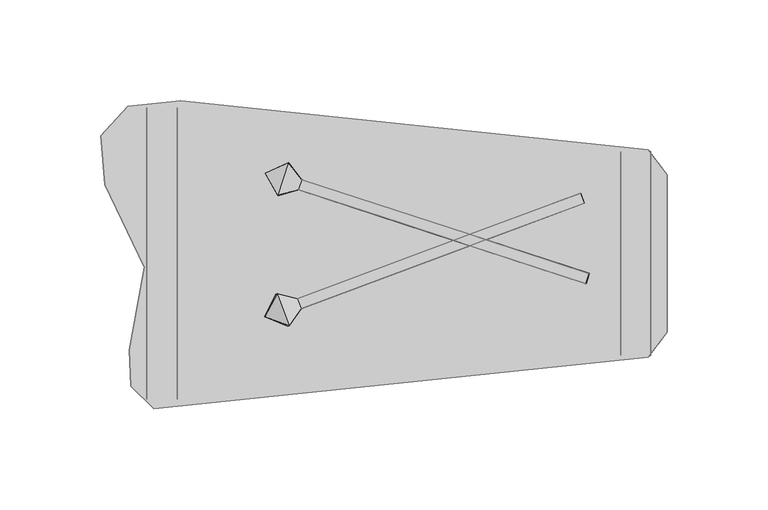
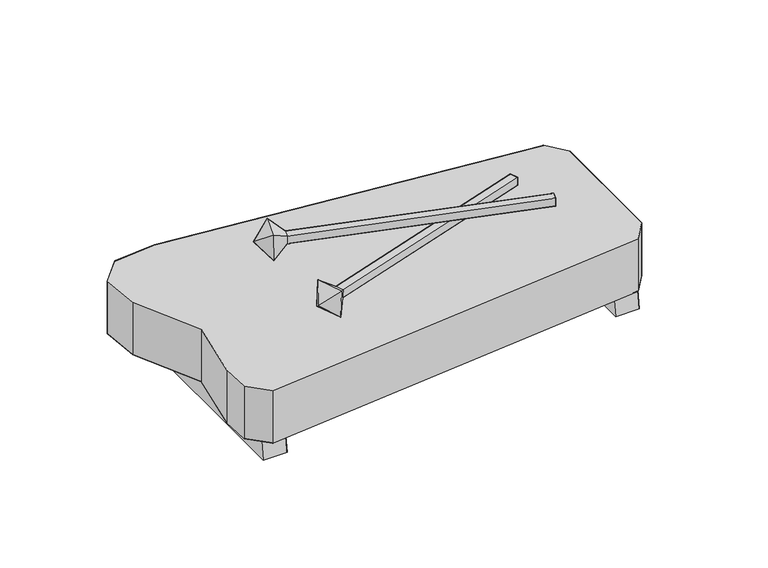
"""IFC4 building model written with IfcOpenShell, lengths in millimetres: geographic element geometry, Enscape AssetDefinition - Instrument 012 Xylophone : Enscape AssetDefinition - Instrument 012 Xylophone."""

from ifc_helpers import new_model, si_unit, origin, place, context, project, spatial, triangles, source, transform, mapped, element, save


def geographic_element_a3d3143a(model_context):
    return source(origin(), model_context, "Body", "Tessellation", [
        triangles([(122.6159986, -51.4159977, 47.9019998), (-122.6079958, -77.0999996, 12.9020002), (-122.6079958, -77.0999996, 47.9019998), (-134.7050045, -47.7280006, 47.9019998), (-133.9530064, -65.7849971, 47.9019998), (-133.9530064, -65.7849971, 12.9020002), (-127.3160024, -6.8189998, 47.9019998), (-134.7050045, -47.7280006, 12.9020002), (-127.3160024, -6.8189998, 12.9020002), (122.6159986, 51.4149985, 12.9020002), (122.6159986, -51.4159977, 12.9020002), (-146.8310085, 34.0900022, 12.9020002), (-148.7729957, 58.4970017, 47.9019998), (-146.8310085, 34.0900022, 47.9019998), (122.6159986, 51.4149985, 47.9019998), (-148.7729957, 58.4970017, 12.9020002), (-109.1729964, 75.6919959, 47.9019998), (-135.491003, 73.0490023, 47.9019998), (-109.1729964, 75.6919959, 12.9020002), (-135.491003, 73.0490023, 12.9020002), (132.0560019, 39.1130014, 12.9020002), (132.0560019, 39.1130014, 47.9019998), (132.0560019, -39.1140006, 12.9020002), (132.0560019, -39.1140006, 47.9019998), (-125.8890001, -72.3970027, 0.0), (-125.8890001, 72.3680028, 0.0), (-110.8889982, -72.3970027, 0.0), (-110.8889982, 69.5120043, 19.974998), (-110.8889982, 72.3680028, 0.0), (-110.8889982, -69.5409997, 19.974998), (-125.8890001, -69.5409997, 19.974998), (-125.8890001, 69.5120043, 19.974998), (123.9840019, 50.469998, 0.0), (123.9840019, -50.4710018, 0.0), (123.9840019, 47.6139996, 19.974998), (108.984, 50.469998, 0.0), (108.984, 47.6139996, 19.974998), (123.9840019, -47.6149988, 19.974998), (108.984, -50.4710018, 0.0), (108.984, -47.6149988, 19.974998), (91.7859945, -14.8910004, 63.4009993), (93.4090059, -9.92, 63.4009993), (-50.7140011, 31.6420003, 54.6839986), (-50.7920033, 31.667001, 59.912999), (91.8629974, -14.9170003, 58.1709996), (-49.1680017, 36.6390018, 59.912999), (93.486999, -9.9449996, 58.1709996), (-55.7839996, 44.9989975, 65.668003), (-61.0660037, 28.8229999, 65.668003), (-67.3409977, 39.8230008, 57.0119997), (-55.5309991, 44.9159993, 48.6540024), (-49.0909988, 36.614001, 54.6839986), (-60.8129986, 28.7399995, 48.6540024), (90.9580018, 25.032, 53.5210019), (-49.4390017, -27.3520005, 59.3799965), (-51.2670015, -22.4519998, 59.3810003), (90.7360041, 24.9489995, 48.2960028), (88.9079998, 29.8490002, 48.2960028), (89.1299975, 29.9320007, 53.5210019), (-61.3070001, -19.9099993, 65.668003), (-67.5979996, -31.3359984, 57.5949992), (-55.3579991, -35.8529987, 65.6619986), (-56.0799981, -36.1169997, 48.6629999), (-62.0289991, -20.1740003, 48.6680005), (-51.4889992, -22.5329996, 54.1570005), (-49.6609995, -27.4330003, 54.1549975)], [[65, 66, 63], [57, 66, 65], [65, 58, 57], [63, 64, 65], [64, 63, 61], [63, 62, 61], [62, 63, 66], [60, 64, 61], [62, 60, 61], [64, 60, 56], [56, 65, 64], [58, 65, 56], [57, 58, 59], [56, 59, 58], [59, 54, 57], [66, 57, 54], [66, 55, 62], [60, 62, 55], [55, 56, 60], [54, 55, 66], [59, 56, 55], [55, 54, 59], [52, 43, 53], [45, 43, 52], [52, 47, 45], [53, 51, 52], [51, 53, 50], [53, 49, 50], [49, 53, 43], [48, 51, 50], [49, 48, 50], [51, 48, 46], [46, 52, 51], [47, 52, 46], [45, 47, 42], [46, 42, 47], [42, 41, 45], [43, 45, 41], [43, 44, 49], [48, 49, 44], [44, 46, 48], [41, 44, 43], [42, 46, 44], [44, 41, 42], [40, 37, 36], [36, 39, 40], [38, 40, 39], [35, 38, 34], [39, 34, 38], [33, 36, 37], [37, 35, 33], [34, 33, 35], [39, 36, 33], [33, 34, 39], [31, 32, 26], [26, 25, 31], [30, 31, 25], [28, 30, 27], [25, 27, 30], [29, 26, 32], [32, 28, 29], [27, 29, 28], [25, 26, 29], [29, 27, 25], [22, 24, 23], [24, 1, 11], [11, 23, 24], [21, 23, 11], [23, 21, 22], [15, 1, 24], [24, 22, 15], [15, 22, 21], [17, 19, 20], [19, 17, 15], [20, 18, 17], [17, 18, 13], [16, 20, 19], [18, 20, 16], [16, 13, 18], [11, 10, 21], [21, 10, 15], [16, 19, 10], [15, 10, 19], [12, 16, 10], [13, 16, 12], [15, 17, 14], [17, 13, 14], [12, 14, 13], [10, 9, 12], [9, 10, 11], [14, 12, 9], [1, 15, 7], [15, 14, 7], [9, 7, 14], [8, 9, 11], [7, 9, 8], [1, 7, 4], [8, 4, 7], [4, 8, 6], [6, 5, 4], [3, 1, 4], [3, 5, 6], [5, 3, 4], [2, 6, 8], [6, 2, 3], [1, 3, 2], [2, 11, 1], [2, 8, 11]], closed=False),
    ])


if __name__ == "__main__":
    model = new_model("IFC4")
    model_context = context("Model", 3, world=origin())
    ifc_project = project(units=[si_unit("LENGTHUNIT", "METRE", prefix="MILLI")], contexts=[model_context])
    site = spatial("IfcSite", under=ifc_project)
    building = spatial("IfcBuilding", under=site)
    placement = place(None, origin())
    geographic_element_shape = geographic_element_a3d3143a(model_context)
    element("IfcGeographicElement", 1, ObjectType="Enscape AssetDefinition - Instrument 012 Xylophone : Enscape AssetDefinition - Instrument 012 Xylophone", at=placement, inside=building, context=model_context, shape_type="MappedRepresentation", body=[
        mapped(geographic_element_shape, transform((0.0, 0.0, 0.0), x_axis=(1.0, 0.0, 0.0), y_axis=(0.0, 1.0, 0.0), z_axis=(0.0, 0.0, 1.0))),
    ])
    save(model, "model.ifc")
